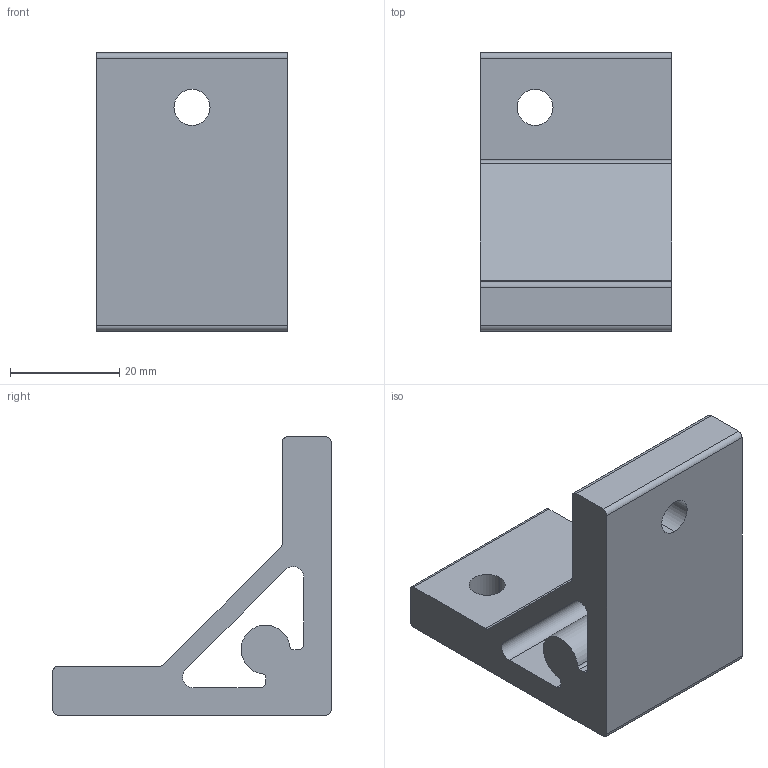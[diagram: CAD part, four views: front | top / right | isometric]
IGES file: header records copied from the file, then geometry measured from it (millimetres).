
Start section: SolidWorks IGES file using analytic representation for surfaces
Global section: file name: C:\Documents and Settings\Administrator\デスクトップ\指定保存後4回目\SolidWorks\SF\SF40・45\Bracket\ハードブラケットL45-S・L(R)\SFJ-N55.IGS; native system: SolidWorks 2006 by SolidWorks Corporation; preprocessor: SolidWorks 2006 by SolidWorks Corporation; author: Administrator; date: 061218.092008; units: millimetre
Bounding box: 35 x 51 x 51 mm (x, y, z)
Volume: 29880.9 mm3; surface area: 11621 mm2
Topology: 1 solids, 1 shells, 32 faces, 90 edges, 60 vertices
Faces by surface type: revolution 18, plane 14
